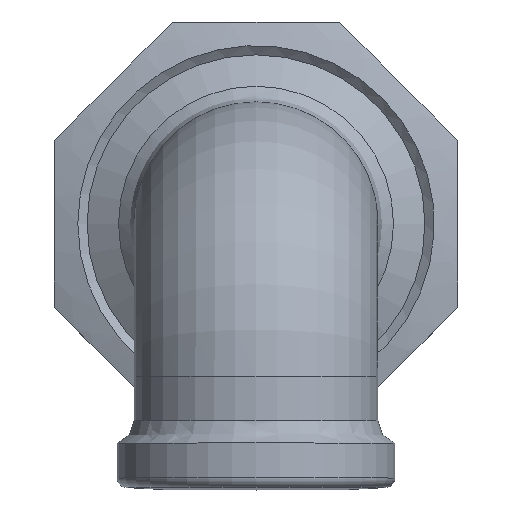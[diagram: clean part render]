
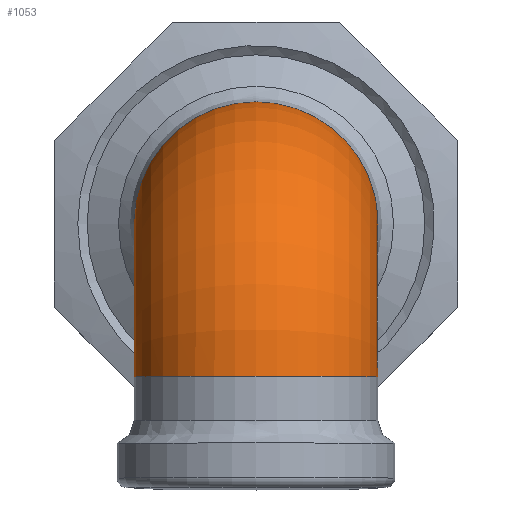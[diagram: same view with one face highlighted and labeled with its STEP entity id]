
A CAD part, top view. The second image highlights one B-rep face of the part: STEP entity #1053.
In plain terms, the highlighted toroidal (fillet/blend) face has major radius 16.1 mm and minor radius 12.8 mm.
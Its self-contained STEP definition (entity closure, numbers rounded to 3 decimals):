
#319=CARTESIAN_POINT('',(12.443,3.001,40.33));
#320=VERTEX_POINT('',#319);
#328=CARTESIAN_POINT('',(12.797,0.076,42.962));
#329=VERTEX_POINT('',#328);
#330=CARTESIAN_POINT('',(12.797,0.076,42.962));
#331=CARTESIAN_POINT('',(12.781,0.924,42.199));
#332=CARTESIAN_POINT('',(12.698,1.835,41.379));
#333=CARTESIAN_POINT('',(12.506,2.728,40.575));
#334=CARTESIAN_POINT('',(12.486,2.819,40.493));
#335=CARTESIAN_POINT('',(12.465,2.91,40.412));
#336=CARTESIAN_POINT('',(12.443,3.001,40.33));
#337=B_SPLINE_CURVE_WITH_KNOTS('',3,(#330,#331,#332,#333,#334,#335,#336),.UNSPECIFIED.,.F.,.U.,(4,3,4),(0.966,1.3,1.335),.UNSPECIFIED.);
#338=EDGE_CURVE('',#329,#320,#337,.T.);
#357=CARTESIAN_POINT('',(12.479,-2.849,40.33));
#358=VERTEX_POINT('',#357);
#359=CARTESIAN_POINT('',(12.479,-2.849,40.33));
#360=CARTESIAN_POINT('',(12.59,-2.361,40.769));
#361=CARTESIAN_POINT('',(12.68,-1.854,41.225));
#362=CARTESIAN_POINT('',(12.734,-1.358,41.672));
#363=CARTESIAN_POINT('',(12.768,-1.047,41.952));
#364=CARTESIAN_POINT('',(12.789,-0.74,42.228));
#365=CARTESIAN_POINT('',(12.797,-0.445,42.494));
#366=CARTESIAN_POINT('',(12.801,-0.269,42.652));
#367=CARTESIAN_POINT('',(12.801,-0.099,42.805));
#368=CARTESIAN_POINT('',(12.797,0.076,42.962));
#369=B_SPLINE_CURVE_WITH_KNOTS('',3,(#359,#360,#361,#362,#363,#364,#365,#366,#367,#368),.UNSPECIFIED.,.F.,.U.,(4,3,3,4),(0.951,1.137,1.253,1.322),.UNSPECIFIED.);
#370=EDGE_CURVE('',#358,#329,#369,.T.);
#1026=CARTESIAN_POINT('',(0.,-16.1,40.33));
#1027=DIRECTION('',(-1.0,0.,0.));
#1028=DIRECTION('',(0.0,0.0,1.0));
#1029=AXIS2_PLACEMENT_3D('',#1026,#1027,#1028);
#1030=TOROIDAL_SURFACE('',#1029,16.1,12.8);
#1031=CARTESIAN_POINT('',(0.,-16.1,69.23));
#1032=VERTEX_POINT('',#1031);
#1033=CARTESIAN_POINT('',(0.,-16.1,56.43));
#1034=DIRECTION('',(0.0,-1.0,0.0));
#1035=DIRECTION('',(0.0,0.0,-1.0));
#1036=AXIS2_PLACEMENT_3D('',#1033,#1034,#1035);
#1037=CIRCLE('',#1036,12.8);
#1038=EDGE_CURVE('',#1032,#1032,#1037,.T.);
#1039=ORIENTED_EDGE('',*,*,#1038,.F.);
#1040=EDGE_LOOP('',(#1039));
#1041=FACE_OUTER_BOUND('',#1040,.T.);
#1042=ORIENTED_EDGE('',*,*,#370,.T.);
#1043=ORIENTED_EDGE('',*,*,#338,.T.);
#1044=CARTESIAN_POINT('',(0.,0.,40.33));
#1045=DIRECTION('',(0.0,0.0,1.0));
#1046=DIRECTION('',(0.0,-1.0,0.0));
#1047=AXIS2_PLACEMENT_3D('',#1044,#1045,#1046);
#1048=CIRCLE('',#1047,12.8);
#1049=EDGE_CURVE('',#320,#358,#1048,.T.);
#1050=ORIENTED_EDGE('',*,*,#1049,.T.);
#1051=EDGE_LOOP('',(#1042,#1043,#1050));
#1052=FACE_BOUND('',#1051,.T.);
#1053=ADVANCED_FACE('',(#1041,#1052),#1030,.T.);
